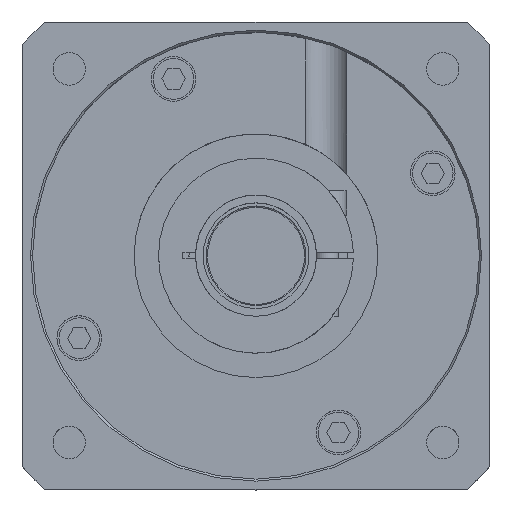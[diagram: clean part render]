
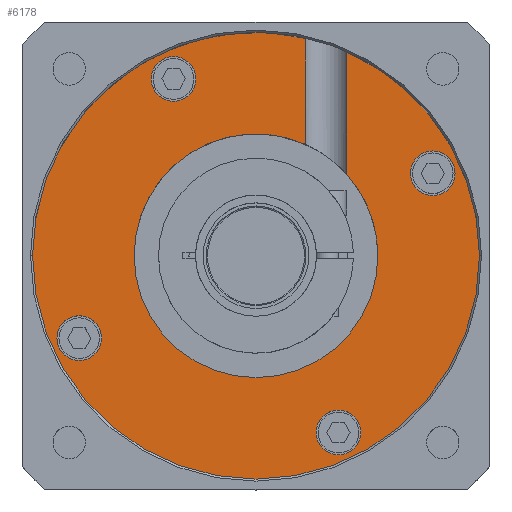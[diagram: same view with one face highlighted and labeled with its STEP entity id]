
A CAD part, top view. The second image highlights one B-rep face of the part: STEP entity #6178.
In plain terms, the highlighted planar face has unit normal (0, 0, 1) as drawn and (0, 0, -1) by its records, which use the part's own axes.
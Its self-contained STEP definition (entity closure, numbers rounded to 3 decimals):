
#5324=CARTESIAN_POINT('',(-22.322,20.043,10.));
#5349=CARTESIAN_POINT('',(-12.278,27.373,10.));
#5351=CARTESIAN_POINT('',(-43.503,20.286,10.));
#5352=DIRECTION('',(0.,0.,1.));
#5353=DIRECTION('',(1.,0.,0.));
#5354=AXIS2_PLACEMENT_3D('',#5351,#5352,#5353);
#5356=CARTESIAN_POINT('',(-43.503,20.286,10.));
#5357=DIRECTION('',(0.,0.,1.));
#5358=DIRECTION('',(-1.,0.,0.));
#5359=AXIS2_PLACEMENT_3D('',#5356,#5357,#5358);
#5361=CARTESIAN_POINT('',(20.286,43.503,10.));
#5362=DIRECTION('',(0.,0.,1.));
#5363=DIRECTION('',(1.,0.,0.));
#5364=AXIS2_PLACEMENT_3D('',#5361,#5362,#5363);
#5366=CARTESIAN_POINT('',(20.286,43.503,10.));
#5367=DIRECTION('',(0.,0.,1.));
#5368=DIRECTION('',(-1.,0.,0.));
#5369=AXIS2_PLACEMENT_3D('',#5366,#5367,#5368);
#5371=CARTESIAN_POINT('',(43.503,-20.286,10.));
#5372=DIRECTION('',(0.,0.,1.));
#5373=DIRECTION('',(1.,0.,0.));
#5374=AXIS2_PLACEMENT_3D('',#5371,#5372,#5373);
#5376=CARTESIAN_POINT('',(43.503,-20.286,10.));
#5377=DIRECTION('',(0.,0.,1.));
#5378=DIRECTION('',(-1.,0.,0.));
#5379=AXIS2_PLACEMENT_3D('',#5376,#5377,#5378);
#5381=CARTESIAN_POINT('',(-20.286,-43.503,10.));
#5382=DIRECTION('',(0.,0.,1.));
#5383=DIRECTION('',(1.,0.,0.));
#5384=AXIS2_PLACEMENT_3D('',#5381,#5382,#5383);
#5386=CARTESIAN_POINT('',(-20.286,-43.503,10.));
#5387=DIRECTION('',(0.,0.,1.));
#5388=DIRECTION('',(-1.,0.,0.));
#5389=AXIS2_PLACEMENT_3D('',#5386,#5387,#5388);
#5391=DIRECTION('',(0.,-1.,0.));
#5392=VECTOR('',#5391,30.224);
#5393=CARTESIAN_POINT('',(-22.322,50.266,10.));
#5394=LINE('',#5393,#5392);
#5395=CARTESIAN_POINT('',(0.,0.,10.));
#5396=DIRECTION('',(0.,0.,1.));
#5397=DIRECTION('',(-0.406,0.914,0.));
#5398=AXIS2_PLACEMENT_3D('',#5395,#5396,#5397);
#5400=CARTESIAN_POINT('',(0.,0.,10.));
#5401=DIRECTION('',(0.,0.,1.));
#5402=DIRECTION('',(-1.,0.,0.));
#5403=AXIS2_PLACEMENT_3D('',#5400,#5401,#5402);
#5405=CARTESIAN_POINT('',(0.,0.,10.));
#5406=DIRECTION('',(0.,0.,1.));
#5407=DIRECTION('',(1.,0.,0.));
#5408=AXIS2_PLACEMENT_3D('',#5405,#5406,#5407);
#5410=DIRECTION('',(0.,-1.,0.));
#5411=VECTOR('',#5410,26.24);
#5412=CARTESIAN_POINT('',(-12.278,53.612,10.));
#5413=LINE('',#5412,#5411);
#5414=CARTESIAN_POINT('',(0.,0.,10.));
#5415=DIRECTION('',(0.,0.,-1.));
#5416=DIRECTION('',(-0.409,0.912,0.));
#5417=AXIS2_PLACEMENT_3D('',#5414,#5415,#5416);
#5419=CARTESIAN_POINT('',(0.,0.,10.));
#5420=DIRECTION('',(0.,0.,-1.));
#5421=DIRECTION('',(1.,0.,0.));
#5422=AXIS2_PLACEMENT_3D('',#5419,#5420,#5421);
#5424=CARTESIAN_POINT('',(0.,0.,10.));
#5425=DIRECTION('',(0.,0.,-1.));
#5426=DIRECTION('',(-1.,0.,0.));
#5427=AXIS2_PLACEMENT_3D('',#5424,#5425,#5426);
#5573=CARTESIAN_POINT('',(-12.278,53.612,10.));
#5585=CARTESIAN_POINT('',(-22.322,50.266,10.));
#5766=CARTESIAN_POINT('',(-49.003,20.286,10.));
#5767=VERTEX_POINT('',#5766);
#5768=CARTESIAN_POINT('',(-38.003,20.286,10.));
#5769=VERTEX_POINT('',#5768);
#5778=CARTESIAN_POINT('',(25.786,43.503,10.));
#5779=VERTEX_POINT('',#5778);
#5780=CARTESIAN_POINT('',(14.786,43.503,10.));
#5781=VERTEX_POINT('',#5780);
#5790=CARTESIAN_POINT('',(49.003,-20.286,10.));
#5791=VERTEX_POINT('',#5790);
#5792=CARTESIAN_POINT('',(38.003,-20.286,10.));
#5793=VERTEX_POINT('',#5792);
#5802=CARTESIAN_POINT('',(-14.786,-43.503,10.));
#5803=VERTEX_POINT('',#5802);
#5804=CARTESIAN_POINT('',(-25.786,-43.503,10.));
#5805=VERTEX_POINT('',#5804);
#5812=VERTEX_POINT('',#5324);
#5813=VERTEX_POINT('',#5349);
#5846=CARTESIAN_POINT('',(-55.,0.,10.));
#5847=CARTESIAN_POINT('',(55.,0.,10.));
#5848=VERTEX_POINT('',#5846);
#5849=VERTEX_POINT('',#5847);
#5850=VERTEX_POINT('',#5573);
#5851=VERTEX_POINT('',#5585);
#5852=CARTESIAN_POINT('',(30.,0.,10.));
#5853=CARTESIAN_POINT('',(-30.,0.,10.));
#5854=VERTEX_POINT('',#5852);
#5855=VERTEX_POINT('',#5853);
#6135=CARTESIAN_POINT('',(0.,0.,10.));
#6136=DIRECTION('',(0.,0.,1.));
#6137=DIRECTION('',(1.,0.,0.));
#6138=AXIS2_PLACEMENT_3D('',#6135,#6136,#6137);
#6139=PLANE('',#6138);
#6140=ORIENTED_EDGE('',*,*,#6106,.F.);
#6142=ORIENTED_EDGE('',*,*,#6141,.T.);
#6144=ORIENTED_EDGE('',*,*,#6143,.T.);
#6146=ORIENTED_EDGE('',*,*,#6145,.T.);
#6147=ORIENTED_EDGE('',*,*,#6102,.T.);
#6148=ORIENTED_EDGE('',*,*,#6129,.T.);
#6150=ORIENTED_EDGE('',*,*,#6149,.T.);
#6151=ORIENTED_EDGE('',*,*,#6121,.T.);
#6152=EDGE_LOOP('',(#6140,#6142,#6144,#6146,#6147,#6148,#6150,#6151));
#6153=FACE_OUTER_BOUND('',#6152,.F.);
#6155=ORIENTED_EDGE('',*,*,#6154,.F.);
#6157=ORIENTED_EDGE('',*,*,#6156,.F.);
#6158=EDGE_LOOP('',(#6155,#6157));
#6159=FACE_BOUND('',#6158,.F.);
#6161=ORIENTED_EDGE('',*,*,#6160,.F.);
#6163=ORIENTED_EDGE('',*,*,#6162,.F.);
#6164=EDGE_LOOP('',(#6161,#6163));
#6165=FACE_BOUND('',#6164,.F.);
#6167=ORIENTED_EDGE('',*,*,#6166,.F.);
#6169=ORIENTED_EDGE('',*,*,#6168,.F.);
#6170=EDGE_LOOP('',(#6167,#6169));
#6171=FACE_BOUND('',#6170,.F.);
#6173=ORIENTED_EDGE('',*,*,#6172,.F.);
#6175=ORIENTED_EDGE('',*,*,#6174,.F.);
#6176=EDGE_LOOP('',(#6173,#6175));
#6177=FACE_BOUND('',#6176,.F.);
#6178=ADVANCED_FACE('',(#6153,#6159,#6165,#6171,#6177),#6139,.F.);
#5355=CIRCLE('',#5354,5.5);
#5360=CIRCLE('',#5359,5.5);
#5365=CIRCLE('',#5364,5.5);
#5370=CIRCLE('',#5369,5.5);
#5375=CIRCLE('',#5374,5.5);
#5380=CIRCLE('',#5379,5.5);
#5385=CIRCLE('',#5384,5.5);
#5390=CIRCLE('',#5389,5.5);
#5399=CIRCLE('',#5398,55.);
#5404=CIRCLE('',#5403,55.);
#5409=CIRCLE('',#5408,55.);
#5418=CIRCLE('',#5417,30.);
#5423=CIRCLE('',#5422,30.);
#5428=CIRCLE('',#5427,30.);
#6102=EDGE_CURVE('',#5850,#5813,#5413,.T.);
#6106=EDGE_CURVE('',#5851,#5812,#5394,.T.);
#6121=EDGE_CURVE('',#5855,#5812,#5428,.T.);
#6129=EDGE_CURVE('',#5813,#5854,#5418,.T.);
#6141=EDGE_CURVE('',#5851,#5848,#5399,.T.);
#6143=EDGE_CURVE('',#5848,#5849,#5404,.T.);
#6145=EDGE_CURVE('',#5849,#5850,#5409,.T.);
#6149=EDGE_CURVE('',#5854,#5855,#5423,.T.);
#6154=EDGE_CURVE('',#5769,#5767,#5355,.T.);
#6156=EDGE_CURVE('',#5767,#5769,#5360,.T.);
#6160=EDGE_CURVE('',#5779,#5781,#5365,.T.);
#6162=EDGE_CURVE('',#5781,#5779,#5370,.T.);
#6166=EDGE_CURVE('',#5791,#5793,#5375,.T.);
#6168=EDGE_CURVE('',#5793,#5791,#5380,.T.);
#6172=EDGE_CURVE('',#5803,#5805,#5385,.T.);
#6174=EDGE_CURVE('',#5805,#5803,#5390,.T.);
